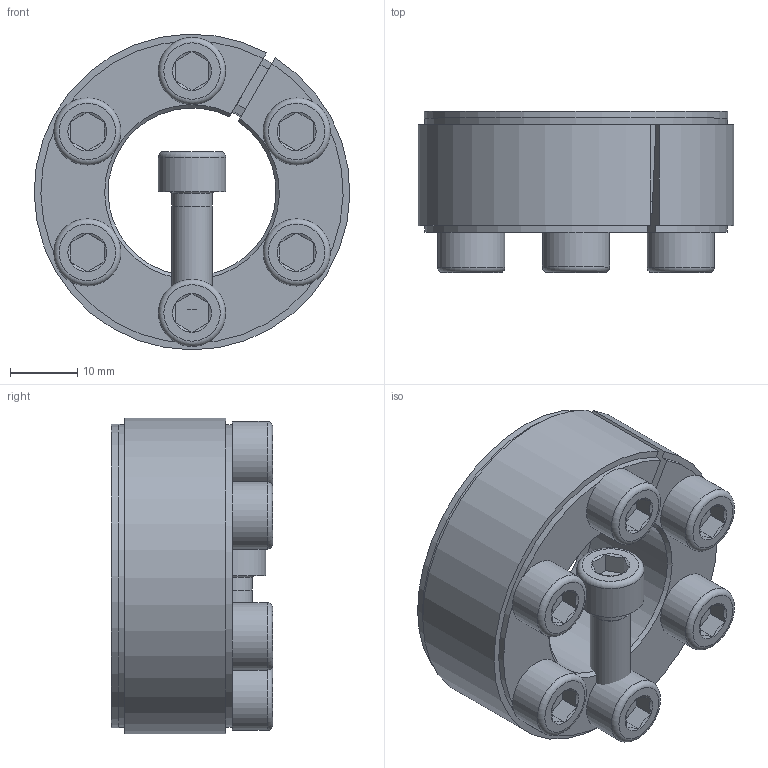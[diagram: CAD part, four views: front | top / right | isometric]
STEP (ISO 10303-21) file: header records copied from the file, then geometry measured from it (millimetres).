
FILE_DESCRIPTION( ( 'Unknown' ), '1' );
FILE_NAME( 'C:/Dokumente und Einstellungen/Sven/Desktop/homepage/cad - homepage/KBS52/KBS 52 - 25 x 47.stp', 'Unknown', ( 'Unknown' ), ( 'Unknown' ), 'XStep 1.0', 'Unknown', ' ' );
FILE_SCHEMA( ( 'automotive_design' ) );
Length unit declared in the file: millimetre
Products named in the file (3): Assem1; KBS 52 - 25 x 47; ISO EN DIN 4762 M6x18
Bounding box: 46.99 x 24 x 46.99 mm (x, y, z)
Volume: 43679.6 mm3; surface area: 21896.2 mm2
Topology: 9 solids, 9 shells, 227 faces, 453 edges, 270 vertices
Faces by surface type: plane 110, cone 55, cylinder 48, torus 14
Full cylindrical faces by diameter (mm): 5 x7, 6 x26, 10 x7, 45.175 x2
Entity records: 1645 total; most frequent: CARTESIAN_POINT 271, DIRECTION 247, ORIENTED_EDGE 188, AXIS2_PLACEMENT_3D 102, EDGE_CURVE 94, EDGE_LOOP 84, VERTEX_POINT 66, FACE_OUTER_BOUND 64
